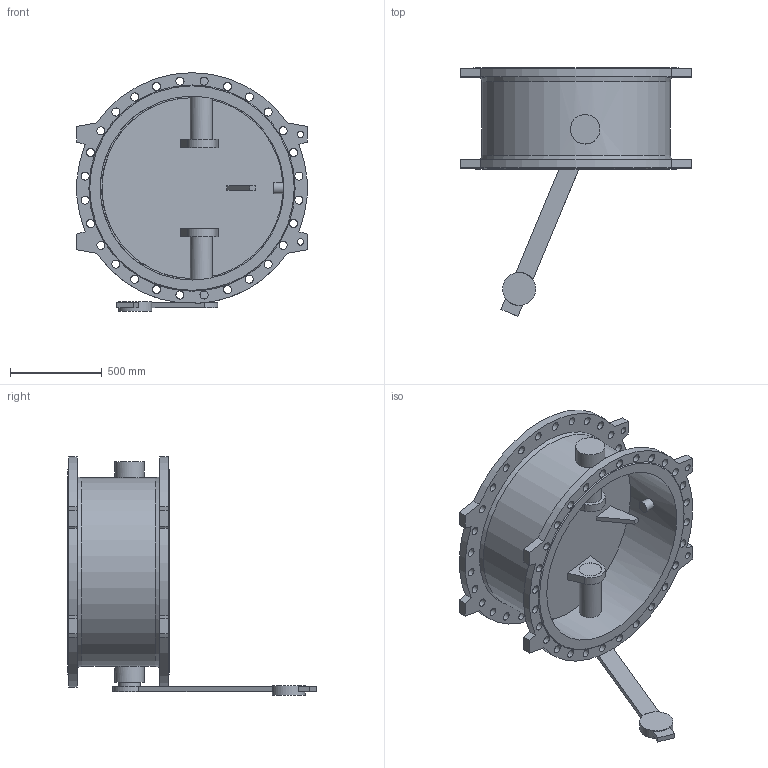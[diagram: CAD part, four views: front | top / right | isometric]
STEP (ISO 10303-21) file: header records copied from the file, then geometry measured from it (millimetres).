
FILE_DESCRIPTION(('STEP AP203'), '1');
FILE_NAME('Êëàïàí 015F.PV DN1000 PN16 ñ ïðîòèâîâåñîì', '', ('UNSPECIFIED'), ('UNSPECIFIED'), 'ASCON STEP Converter 1.6', 'ASCON Math Kernel', '');
FILE_SCHEMA(('CONFIG_CONTROL_DESIGN'));
Length unit declared in the file: millimetre
Bounding box: 1255 x 1350 x 1297.5 mm (x, y, z)
Volume: 84570051.2 mm3; surface area: 8018753.9 mm2
Topology: 1 solids, 1 shells, 153 faces, 411 edges, 273 vertices
Faces by surface type: cylinder 83, plane 63, cone 4, extrusion 2, bspline 1
Full cylindrical faces by diameter (mm): 35 x4, 44 x56, 60 x1, 120 x3, 122 x2, 160 x2, 180 x1, 1000 x1, 1026 x1
Entity records: 6980 total; most frequent: CARTESIAN_POINT 1814, DIRECTION 786, ORIENTED_EDGE 658, EDGE_LOOP 375, EDGE_CURVE 329, AXIS2_PLACEMENT_3D 324, VERTEX_POINT 272, FACE_BOUND 223
